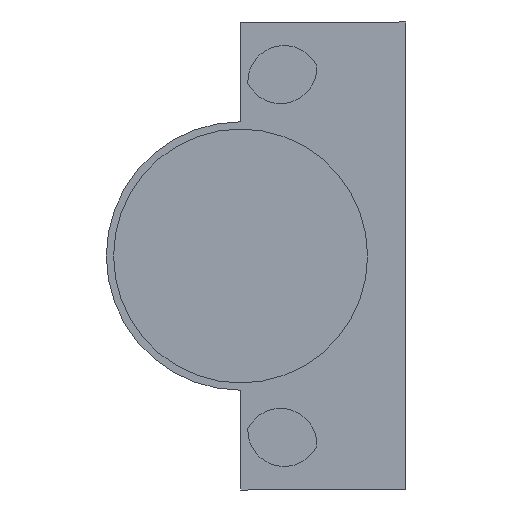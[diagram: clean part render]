
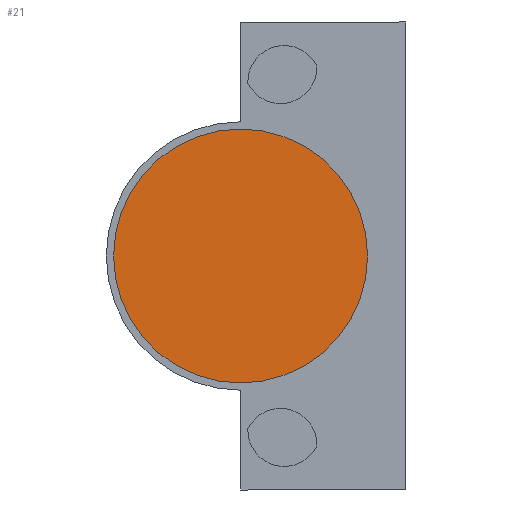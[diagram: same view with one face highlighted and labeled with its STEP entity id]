
A CAD part, front view. The second image highlights one B-rep face of the part: STEP entity #21.
In plain terms, the highlighted planar face has unit normal (0, -1, 0).
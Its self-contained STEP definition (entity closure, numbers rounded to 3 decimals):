
#21 = ADVANCED_FACE ( 'NONE', ( #1308 ), #785, .T. ) ;
#130 = CARTESIAN_POINT ( 'NONE',  ( 12., -51.1, 0. ) ) ;
#262 = CARTESIAN_POINT ( 'NONE',  ( 29.5, -51.1, 0. ) ) ;
#277 = CARTESIAN_POINT ( 'NONE',  ( 12., -51.1, 0. ) ) ;
#352 = CARTESIAN_POINT ( 'NONE',  ( -5.5, -51.1, 0. ) ) ;
#486 = EDGE_CURVE ( 'NONE', #1530, #1100, #678, .T. ) ;
#534 = DIRECTION ( 'NONE',  ( 1., 0., 0. ) ) ;
#540 = EDGE_LOOP ( 'NONE', ( #1427, #848 ) ) ;
#678 = CIRCLE ( 'NONE', #823, 17.5 ) ;
#721 = DIRECTION ( 'NONE',  ( 1., 0., 0. ) ) ;
#785 = PLANE ( 'NONE',  #1507 ) ;
#823 = AXIS2_PLACEMENT_3D ( 'NONE', #130, #1554, #1168 ) ;
#848 = ORIENTED_EDGE ( 'NONE', *, *, #1446, .T. ) ;
#883 = CARTESIAN_POINT ( 'NONE',  ( 12., -51.1, 0. ) ) ;
#971 = AXIS2_PLACEMENT_3D ( 'NONE', #883, #1232, #721 ) ;
#1100 = VERTEX_POINT ( 'NONE', #262 ) ;
#1168 = DIRECTION ( 'NONE',  ( 1., 0., 0. ) ) ;
#1232 = DIRECTION ( 'NONE',  ( 0., -1., 0. ) ) ;
#1276 = DIRECTION ( 'NONE',  ( 0., -1., 0. ) ) ;
#1308 = FACE_OUTER_BOUND ( 'NONE', #540, .T. ) ;
#1427 = ORIENTED_EDGE ( 'NONE', *, *, #486, .T. ) ;
#1446 = EDGE_CURVE ( 'NONE', #1100, #1530, #1637, .T. ) ;
#1507 = AXIS2_PLACEMENT_3D ( 'NONE', #277, #1276, #534 ) ;
#1530 = VERTEX_POINT ( 'NONE', #352 ) ;
#1554 = DIRECTION ( 'NONE',  ( 0., -1., 0. ) ) ;
#1637 = CIRCLE ( 'NONE', #971, 17.5 ) ;
